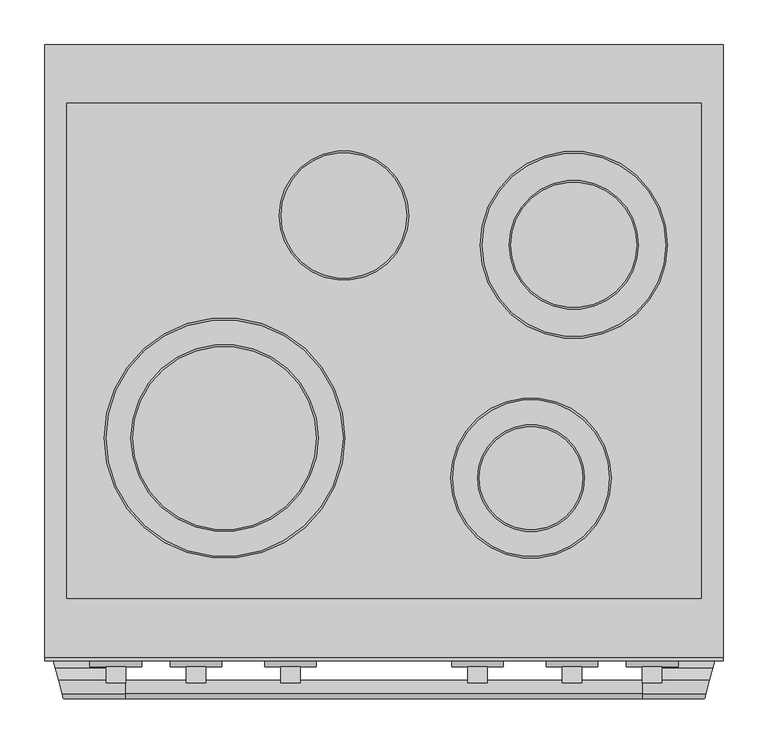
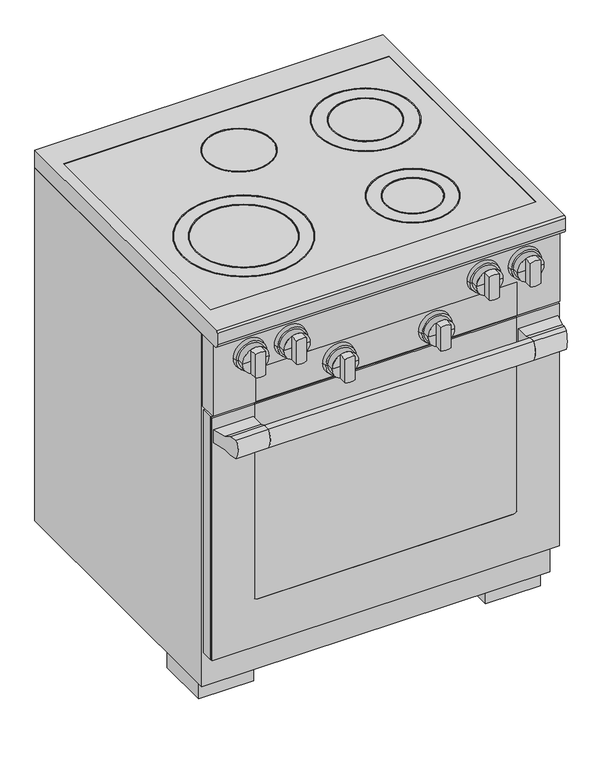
"""IFC4 building model written with IfcOpenShell, lengths in millimetres: proxy geometry, 09810110_USA_HR1421_EDST-CLST : 25142151_USA_9810110_HR1421_EDST-CLST."""

from ifc_helpers import new_model, si_unit, point, frame, frame_2d, origin, origin_with_axes, place, context, project, spatial, polyline, circle_curve, ellipse_curve, trimmed, segment, composite_curve, outline, extrude, faceted_brep, source, transform, mapped, element, save
from ifc_brep_helpers import plane_surface, cylinder_surface, revolved_surface, advanced_brep


def specialty_equipment_0d91f95b(model_context):
    return source(origin(), model_context, "Body", "SolidModel", [
        extrude(outline(composite_curve([segment(polyline([(-729.0, 667.0), (-714.0, 667.0), (-714.0, 624.0), (-729.0, 624.0)]), True, "CONTINUOUS"), segment(trimmed(circle_curve(frame_2d((-693.4791667, 645.5)), 41.5208333), [point((-729.0, 624.0))], [point((-729.0, 667.0))], False, "CARTESIAN"), True, "CONTINUOUS")], self_intersect=False)), frame((-290.0, 0.0, 0.0), z_axis=(1.0, 0.0, 0.0), x_axis=(0.0, 1.0, 0.0)), (0.0, 0.0, 1.0), 580.0),
        extrude(outline(polyline([(-380.0, -638.0), (380.0, -638.0), (380.0, -664.7), (-380.0, -664.7), (-380.0, -638.0)])), frame((0.0, 0.0, 127.0), z_axis=(0.0, 0.0, 1.0), x_axis=(1.0, 0.0, 0.0)), (0.0, 0.0, 1.0), 561.0),
        extrude(outline(polyline([(-379.0, -664.7), (379.0, -664.7), (379.0, -668.7), (-379.0, -668.7), (-379.0, -664.7)])), frame((0.0, 0.0, 128.0), z_axis=(0.0, 0.0, 1.0), x_axis=(1.0, 0.0, 0.0)), (0.0, 0.0, 1.0), 559.0),
        advanced_brep(
        [(287.0, -664.7, 688.0), (380.0, -664.7, 688.0), (380.0, -664.7, 127.0), (-380.0, -664.7, 127.0), (-380.0, -664.7, 688.0), (-287.0, -664.7, 688.0), (-287.0, -664.7, 687.0), (-379.0, -664.7, 687.0), (-379.0, -664.7, 128.0), (379.0, -664.7, 128.0), (379.0, -664.7, 687.0), (287.0, -664.7, 687.0), (-287.0, -670.0, 688.0), (-380.0, -670.0, 688.0), (-380.0, -670.0, 127.0), (380.0, -670.0, 127.0), (380.0, -670.0, 688.0), (287.0, -670.0, 688.0), (287.0, -670.0, 241.0), (281.0, -670.0, 235.0), (-281.0, -670.0, 235.0), (-287.0, -670.0, 241.0), (-287.0, -668.7, 241.0), (-287.0, -668.7, 687.0), (281.0, -668.7, 235.0), (-281.0, -668.7, 235.0), (287.0, -668.7, 687.0), (287.0, -668.7, 241.0), (379.0, -668.7, 687.0), (379.0, -668.7, 128.0), (-379.0, -668.7, 128.0), (-379.0, -668.7, 687.0)],
        [
            (0, 1),
            (1, 2),
            (2, 3),
            (3, 4),
            (4, 5),
            (5, 6),
            (6, 7),
            (7, 8),
            (8, 9),
            (9, 10),
            (10, 11),
            (11, 0),
            (12, 13),
            (13, 14),
            (14, 15),
            (15, 16),
            (16, 17),
            (17, 18),
            (18, 19, circle_curve(frame((281.0, -670.0, 241.0), z_axis=(0.0, 1.0, 0.0), x_axis=(-1.0, 0.0, 0.0)), 6.0)),
            (19, 20),
            (20, 21, circle_curve(frame((-281.0, -670.0, 241.0), z_axis=(0.0, 1.0, 0.0), x_axis=(-1.0, 0.0, 0.0)), 6.0)),
            (21, 12),
            (21, 22),
            (22, 23),
            (23, 6),
            (5, 12),
            (19, 24),
            (24, 25),
            (25, 20),
            (17, 0),
            (11, 26),
            (26, 27),
            (27, 18),
            (16, 1),
            (15, 2),
            (14, 3),
            (13, 4),
            (25, 22, circle_curve(frame((-281.0, -668.7, 241.0), z_axis=(0.0, 1.0, 0.0), x_axis=(-1.0, 0.0, 0.0)), 6.0)),
            (27, 24, circle_curve(frame((281.0, -668.7, 241.0), z_axis=(0.0, 1.0, 0.0), x_axis=(-1.0, 0.0, 0.0)), 6.0)),
            (28, 29),
            (29, 30),
            (30, 31),
            (31, 23),
            (26, 28),
            (28, 10),
            (9, 29),
            (8, 30),
            (7, 31),
        ],
        [
            plane_surface(frame((-287.0, -664.7, 241.0), z_axis=(0.0, 1.0, 0.0), x_axis=(0.0, 0.0, -1.0))),
            plane_surface(frame((-287.0, -670.0, 241.0), z_axis=(0.0, -1.0, 0.0), x_axis=(0.0, 0.0, 1.0))),
            plane_surface(frame((-287.0, -664.7, 688.0), z_axis=(1.0, 0.0, 0.0), x_axis=(0.0, -1.0, 0.0))),
            plane_surface(frame((-281.0, -664.7, 235.0), z_axis=(0.0, 0.0, 1.0), x_axis=(0.0, -1.0, 0.0))),
            plane_surface(frame((287.0, -664.7, 241.0), z_axis=(-1.0, 0.0, 0.0), x_axis=(0.0, -1.0, 0.0))),
            plane_surface(frame((287.0, -664.7, 688.0), z_axis=(0.0, 0.0, 1.0), x_axis=(0.0, -1.0, 0.0))),
            plane_surface(frame((380.0, -664.7, 688.0), z_axis=(1.0, 0.0, 0.0), x_axis=(0.0, -1.0, 0.0))),
            plane_surface(frame((380.0, -664.7, 127.0), z_axis=(0.0, 0.0, -1.0), x_axis=(0.0, -1.0, 0.0))),
            plane_surface(frame((-380.0, -664.7, 127.0), z_axis=(-1.0, 0.0, 0.0), x_axis=(0.0, -1.0, 0.0))),
            plane_surface(frame((-380.0, -664.7, 688.0), z_axis=(0.0, 0.0, 1.0), x_axis=(0.0, -1.0, 0.0))),
            revolved_surface(polyline([(-287.0, -670.0, 241.0), (-287.0, -668.7, 241.0)]), (-281.0, -670.0, 241.0), (0.0, -1.0, 0.0)),
            revolved_surface(polyline([(275.0, -670.0, 241.0), (275.0, -668.7, 241.0)]), (281.0, -670.0, 241.0), (0.0, -1.0, 0.0)),
            plane_surface(frame((379.0, -668.7, 687.0), z_axis=(0.0, 1.0, 0.0), x_axis=(0.0, 0.0, 1.0))),
            plane_surface(frame((379.0, -664.7, 687.0), z_axis=(-1.0, 0.0, 0.0), x_axis=(0.0, -1.0, 0.0))),
            plane_surface(frame((379.0, -664.7, 128.0), z_axis=(0.0, 0.0, 1.0), x_axis=(0.0, -1.0, 0.0))),
            plane_surface(frame((-379.0, -664.7, 128.0), z_axis=(1.0, 0.0, 0.0), x_axis=(0.0, -1.0, 0.0))),
            plane_surface(frame((-379.0, -664.7, 687.0), z_axis=(0.0, 0.0, -1.0), x_axis=(0.0, -1.0, 0.0))),
        ],
        [
            (0, [[1, 2, 3, 4, 5, 6, 7, 8, 9, 10, 11, 12]]),
            (1, [[13, 14, 15, 16, 17, 18, 19, 20, 21, 22]]),
            (2, [[-22, 23, 24, 25, -6, 26]]),
            (3, [[-20, 27, 28, 29]]),
            (4, [[-18, 30, -12, 31, 32, 33]]),
            (5, [[-1, -30, -17, 34]]),
            (6, [[-2, -34, -16, 35]]),
            (7, [[-3, -35, -15, 36]]),
            (8, [[-4, -36, -14, 37]]),
            (9, [[-5, -37, -13, -26]]),
            (10, [[-21, -29, 38, -23]]),
            (11, [[-19, -33, 39, -27]]),
            (12, [[40, 41, 42, 43, -24, -38, -28, -39, -32, 44]]),
            (13, [[-40, 45, -10, 46]]),
            (14, [[-41, -46, -9, 47]]),
            (15, [[-42, -47, -8, 48]]),
            (16, [[-45, -44, -31, -11]]),
            (16, [[-48, -7, -25, -43]]),
        ],
    ),
        extrude(outline(polyline([(-351.0, -617.0), (351.0, -617.0), (351.0, -638.0), (-351.0, -638.0), (-351.0, -617.0)])), frame((0.0, 0.0, 133.0), z_axis=(0.0, 0.0, 1.0), x_axis=(1.0, 0.0, 0.0)), (0.0, 0.0, 1.0), 550.0),
        advanced_brep(
        [(-290.0, -700.0, 630.0), (-290.0, -670.0, 630.0), (-290.0, -670.0, 661.0), (-290.0, -700.0, 661.0), (-290.0, -714.0, 667.0), (-290.0, -729.0, 667.0), (-290.0, -729.0, 624.0), (-290.0, -714.0, 624.0), (-368.9615242, -700.0, 630.0), (-377.0, -670.0, 630.0), (-377.0, -670.0, 661.0), (-368.9615242, -700.0, 661.0), (-365.2102355, -714.0, 667.0), (-361.1909976, -729.0, 667.0), (-361.1909976, -729.0, 624.0), (-365.2102355, -714.0, 624.0)],
        [
            (0, 1),
            (1, 2),
            (2, 3),
            (3, 4),
            (4, 5),
            (5, 6, circle_curve(frame((-290.0, -693.4791667, 645.5), z_axis=(1.0, 0.0, 0.0), x_axis=(0.0, 0.0, 1.0)), 41.5208333)),
            (6, 7),
            (7, 0),
            (0, 8),
            (8, 9),
            (9, 1),
            (9, 10),
            (10, 2),
            (10, 11),
            (11, 3),
            (4, 12),
            (12, 13),
            (13, 5),
            (13, 14, ellipse_curve(frame((-370.7087763, -693.4791667, 645.5), z_axis=(0.9659258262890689, 0.258819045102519, 0.0), x_axis=(0.2588190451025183, -0.9659258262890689, 0.0)), 42.9855297, 41.5208333)),
            (14, 6),
            (14, 15),
            (15, 7),
            (8, 15),
            (12, 11),
        ],
        [
            plane_surface(frame((-290.0, -670.0, 630.0), z_axis=(1.0, 0.0, 0.0), x_axis=(0.0, 1.0, 0.0))),
            plane_surface(frame((-290.0, -700.0, 630.0), z_axis=(0.0, 0.0, -1.0), x_axis=(-1.0, 0.0, 0.0))),
            plane_surface(frame((-290.0, -670.0, 630.0), z_axis=(0.0, 1.0, 0.0), x_axis=(-1.0, 0.0, 0.0))),
            plane_surface(frame((-290.0, -670.0, 661.0), z_axis=(0.0, 0.0, 1.0), x_axis=(-1.0, 0.0, 0.0))),
            plane_surface(frame((-290.0, -714.0, 667.0), z_axis=(0.0, 0.0, 1.0), x_axis=(-1.0, 0.0, 0.0))),
            cylinder_surface(frame((-377.0, -693.4791667, 645.5), z_axis=(1.0, 0.0, 0.0), x_axis=(0.0, 0.0, 1.0)), 41.5208333),
            plane_surface(frame((-290.0, -729.0, 624.0), z_axis=(0.0, 0.0, -1.0), x_axis=(-1.0, 0.0, 0.0))),
            plane_surface(frame((-354.5578883, -753.7551012, 668.5), z_axis=(-0.9659258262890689, -0.258819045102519, 0.0), x_axis=(0.0, 0.0, -1.0))),
            plane_surface(frame((-290.0, -700.0, 661.0), z_axis=(0.0, 0.39391929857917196, 0.919145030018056), x_axis=(-1.0, 0.0, 0.0))),
            plane_surface(frame((-290.0, -714.0, 624.0), z_axis=(0.0, 0.39391929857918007, -0.9191450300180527), x_axis=(-1.0, 0.0, 0.0))),
        ],
        [
            (0, [[1, 2, 3, 4, 5, 6, 7, 8]]),
            (1, [[-1, 9, 10, 11]]),
            (2, [[-2, -11, 12, 13]]),
            (3, [[-3, -13, 14, 15]]),
            (4, [[-5, 16, 17, 18]]),
            (5, [[-6, -18, 19, 20]]),
            (6, [[-7, -20, 21, 22]]),
            (7, [[-10, 23, -21, -19, -17, 24, -14, -12]]),
            (8, [[-4, -15, -24, -16]]),
            (9, [[-8, -22, -23, -9]]),
        ],
    ),
        advanced_brep(
        [(290.0, -700.0, 661.0), (290.0, -670.0, 661.0), (290.0, -670.0, 630.0), (290.0, -700.0, 630.0), (290.0, -714.0, 624.0), (290.0, -729.0, 624.0), (290.0, -729.0, 667.0), (290.0, -714.0, 667.0), (361.1909976, -729.0, 667.0), (365.2102355, -714.0, 667.0), (361.1909976, -729.0, 624.0), (365.2102355, -714.0, 624.0), (377.0, -670.0, 630.0), (368.9615242, -700.0, 630.0), (377.0, -670.0, 661.0), (368.9615242, -700.0, 661.0)],
        [
            (0, 1),
            (1, 2),
            (2, 3),
            (3, 4),
            (4, 5),
            (5, 6, circle_curve(frame((290.0, -693.4791667, 645.5), z_axis=(-1.0, 0.0, 0.0), x_axis=(0.0, 0.0, 1.0)), 41.5208333)),
            (6, 7),
            (7, 0),
            (6, 8),
            (8, 9),
            (9, 7),
            (5, 10),
            (10, 8, ellipse_curve(frame((370.7087763, -693.4791667, 645.5), z_axis=(-0.9659258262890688, 0.258819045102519, 0.0), x_axis=(0.2588190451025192, 0.9659258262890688, 0.0)), 42.9855297, 41.5208333)),
            (4, 11),
            (11, 10),
            (2, 12),
            (12, 13),
            (13, 3),
            (1, 14),
            (14, 12),
            (0, 15),
            (15, 14),
            (11, 13),
            (15, 9),
        ],
        [
            plane_surface(frame((290.0, -714.0, 667.0), z_axis=(-1.0000000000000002, 0.0, 0.0), x_axis=(0.0, 0.9191450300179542, -0.3939192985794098))),
            plane_surface(frame((377.0, -714.0, 667.0), z_axis=(0.0, 0.0, 1.0), x_axis=(-1.0, 0.0, 0.0))),
            cylinder_surface(frame((290.0, -693.4791667, 645.5), z_axis=(1.0, 0.0, 0.0), x_axis=(0.0, 0.0, 1.0)), 41.5208333),
            plane_surface(frame((377.0, -729.0, 624.0), z_axis=(0.0, 0.0, -1.0), x_axis=(-1.0, 0.0, 0.0))),
            plane_surface(frame((377.0, -700.0, 630.0), z_axis=(0.0, 0.0, -1.0), x_axis=(-1.0, 0.0, 0.0))),
            plane_surface(frame((377.0, -670.0, 630.0), z_axis=(0.0, 1.0, 0.0), x_axis=(-1.0, 0.0, 0.0))),
            plane_surface(frame((377.0, -670.0, 661.0), z_axis=(0.0, 0.0, 1.0), x_axis=(-1.0, 0.0, 0.0))),
            plane_surface(frame((377.0, -670.0, 668.5), z_axis=(0.9659258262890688, -0.258819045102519, 0.0), x_axis=(0.0, 0.0, -1.0))),
            plane_surface(frame((377.0, -700.0, 661.0), z_axis=(0.0, 0.3939192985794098, 0.9191450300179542), x_axis=(-1.0, 0.0, 0.0))),
            plane_surface(frame((377.0, -714.0, 624.0), z_axis=(0.0, 0.3939192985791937, -0.9191450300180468), x_axis=(-1.0, 0.0, 0.0))),
        ],
        [
            (0, [[1, 2, 3, 4, 5, 6, 7, 8]]),
            (1, [[-7, 9, 10, 11]]),
            (2, [[-6, 12, 13, -9]]),
            (3, [[-5, 14, 15, -12]]),
            (4, [[-3, 16, 17, 18]]),
            (5, [[-2, 19, 20, -16]]),
            (6, [[-1, 21, 22, -19]]),
            (7, [[-10, -13, -15, 23, -17, -20, -22, 24]]),
            (8, [[-8, -11, -24, -21]]),
            (9, [[-4, -18, -23, -14]]),
        ],
    ),
        extrude(outline(polyline([(356.0, -66.0), (356.0, -622.0), (-356.0, -622.0), (-356.0, -66.0), (356.0, -66.0)])), frame((0.0, 0.0, 896.4), z_axis=(0.0, 0.0, 1.0), x_axis=(1.0, 0.0, 0.0)), (0.0, 0.0, 1.0), 4.0),
        advanced_brep(
        [(381.0, 0.0, 902.0), (381.0, -688.0, 902.0), (381.0, -692.0, 898.0), (381.0, -692.0, 872.0), (381.0, -682.0, 862.0), (381.0, 0.0, 862.0), (-381.0, 0.0, 902.0), (-381.0, 0.0, 862.0), (-381.0, -682.0, 862.0), (-381.0, -692.0, 872.0), (-381.0, -692.0, 898.0), (-381.0, -688.0, 902.0), (-356.0, -66.0, 902.0), (356.0, -66.0, 902.0), (356.0, -622.0, 902.0), (-356.0, -622.0, 902.0), (356.0, -66.0, 896.4), (-356.0, -66.0, 896.4), (-356.0, -622.0, 896.4), (356.0, -622.0, 896.4)],
        [
            (0, 1),
            (1, 2, circle_curve(frame((381.0, -688.0, 898.0), z_axis=(1.0, 0.0, 0.0), x_axis=(0.0, 0.0, 1.0)), 4.0)),
            (2, 3),
            (3, 4, circle_curve(frame((381.0, -682.0, 872.0), z_axis=(1.0, 0.0, 0.0), x_axis=(0.0, 0.0, 1.0)), 10.0)),
            (4, 5),
            (5, 0),
            (6, 7),
            (7, 8),
            (8, 9, circle_curve(frame((-381.0, -682.0, 872.0), z_axis=(-1.0, 0.0, 0.0), x_axis=(0.0, 0.0, 1.0)), 10.0)),
            (9, 10),
            (10, 11, circle_curve(frame((-381.0, -688.0, 898.0), z_axis=(-1.0, 0.0, 0.0), x_axis=(0.0, 0.0, 1.0)), 4.0)),
            (11, 6),
            (0, 6),
            (11, 1),
            (12, 13),
            (13, 14),
            (14, 15),
            (15, 12),
            (10, 2),
            (9, 3),
            (8, 4),
            (7, 5),
            (16, 17),
            (17, 18),
            (18, 19),
            (19, 16),
            (16, 13),
            (12, 17),
            (15, 18),
            (14, 19),
        ],
        [
            plane_surface(frame((381.0, -688.0, 902.0), z_axis=(1.0, 0.0, 0.0), x_axis=(0.0, -1.0, 0.0))),
            plane_surface(frame((-381.0, -688.0, 902.0), z_axis=(-1.0, 0.0, 0.0), x_axis=(0.0, 1.0, 0.0))),
            plane_surface(frame((381.0, 0.0, 902.0), z_axis=(0.0, 0.0, 1.0), x_axis=(-1.0, 0.0, 0.0))),
            cylinder_surface(frame((-381.0, -688.0, 898.0), z_axis=(1.0, 0.0, 0.0), x_axis=(0.0, 0.0, 1.0)), 4.0),
            plane_surface(frame((381.0, -692.0, 898.0), z_axis=(0.0, -1.0, 0.0), x_axis=(-1.0, 0.0, 0.0))),
            cylinder_surface(frame((-381.0, -682.0, 872.0), z_axis=(1.0, 0.0, 0.0), x_axis=(0.0, 0.0, 1.0)), 10.0),
            plane_surface(frame((381.0, -682.0, 862.0), z_axis=(0.0, 0.0, -1.0), x_axis=(-1.0, 0.0, 0.0))),
            plane_surface(frame((381.0, 0.0, 862.0), z_axis=(0.0, 1.0, 0.0), x_axis=(-1.0, 0.0, 0.0))),
            plane_surface(frame((-356.0, -66.0, 896.4), z_axis=(0.0, 0.0, 1.0), x_axis=(1.0, 0.0, 0.0))),
            plane_surface(frame((356.0, -66.0, 902.0), z_axis=(0.0, -1.0, 0.0), x_axis=(0.0, 0.0, -1.0))),
            plane_surface(frame((-356.0, -66.0, 902.0), z_axis=(1.0, 0.0, 0.0), x_axis=(0.0, 0.0, -1.0))),
            plane_surface(frame((-356.0, -622.0, 902.0), z_axis=(0.0, 1.0, 0.0), x_axis=(0.0, 0.0, -1.0))),
            plane_surface(frame((356.0, -622.0, 902.0), z_axis=(-1.0, 0.0, 0.0), x_axis=(0.0, 0.0, -1.0))),
        ],
        [
            (0, [[1, 2, 3, 4, 5, 6]]),
            (1, [[7, 8, 9, 10, 11, 12]]),
            (2, [[-1, 13, -12, 14], [15, 16, 17, 18]]),
            (3, [[-2, -14, -11, 19]]),
            (4, [[-3, -19, -10, 20]]),
            (5, [[-4, -20, -9, 21]]),
            (6, [[-5, -21, -8, 22]]),
            (7, [[-6, -22, -7, -13]]),
            (8, [[23, 24, 25, 26]]),
            (9, [[-23, 27, -15, 28]]),
            (10, [[-24, -28, -18, 29]]),
            (11, [[-25, -29, -17, 30]]),
            (12, [[-26, -30, -16, -27]]),
        ],
    ),
        extrude(outline(composite_curve([segment(trimmed(circle_curve(frame_2d((-45.0, -192.0)), 72.5), [point((27.5, -192.0))], [point((-117.5, -192.0))], False, "CARTESIAN"), True, "CONTINUOUS"), segment(trimmed(circle_curve(frame_2d((-45.0, -192.0)), 72.5), [point((-117.5, -192.0))], [point((27.5, -192.0))], False, "CARTESIAN"), True, "CONTINUOUS")], self_intersect=False), holes=[composite_curve([segment(trimmed(circle_curve(frame_2d((-45.0, -192.0)), 70.5), [point((25.5, -192.0))], [point((-115.5, -192.0))], True, "CARTESIAN"), True, "CONTINUOUS"), segment(trimmed(circle_curve(frame_2d((-45.0, -192.0)), 70.5), [point((-115.5, -192.0))], [point((25.5, -192.0))], True, "CARTESIAN"), True, "CONTINUOUS")], self_intersect=False)]), frame((0.0, 0.0, 900.4), z_axis=(0.0, 0.0, 1.0), x_axis=(1.0, 0.0, 0.0)), (0.0, 0.0, 1.0), 1.0),
        extrude(outline(composite_curve([segment(trimmed(circle_curve(frame_2d((213.0, -225.0)), 105.0), [point((318.0, -225.0))], [point((108.0, -225.0))], False, "CARTESIAN"), True, "CONTINUOUS"), segment(trimmed(circle_curve(frame_2d((213.0, -225.0)), 105.0), [point((108.0, -225.0))], [point((318.0, -225.0))], False, "CARTESIAN"), True, "CONTINUOUS")], self_intersect=False), holes=[composite_curve([segment(trimmed(circle_curve(frame_2d((213.0, -225.0)), 103.0), [point((316.0, -225.0))], [point((110.0, -225.0))], True, "CARTESIAN"), True, "CONTINUOUS"), segment(trimmed(circle_curve(frame_2d((213.0, -225.0)), 103.0), [point((110.0, -225.0))], [point((316.0, -225.0))], True, "CARTESIAN"), True, "CONTINUOUS")], self_intersect=False)]), frame((0.0, 0.0, 900.4), z_axis=(0.0, 0.0, 1.0), x_axis=(1.0, 0.0, 0.0)), (0.0, 0.0, 1.0), 1.0),
        extrude(outline(composite_curve([segment(trimmed(circle_curve(frame_2d((165.0, -487.0)), 90.0), [point((255.0, -487.0))], [point((75.0, -487.0))], False, "CARTESIAN"), True, "CONTINUOUS"), segment(trimmed(circle_curve(frame_2d((165.0, -487.0)), 90.0), [point((75.0, -487.0))], [point((255.0, -487.0))], False, "CARTESIAN"), True, "CONTINUOUS")], self_intersect=False), holes=[composite_curve([segment(trimmed(circle_curve(frame_2d((165.0, -487.0)), 88.0), [point((253.0, -487.0))], [point((77.0, -487.0))], True, "CARTESIAN"), True, "CONTINUOUS"), segment(trimmed(circle_curve(frame_2d((165.0, -487.0)), 88.0), [point((77.0, -487.0))], [point((253.0, -487.0))], True, "CARTESIAN"), True, "CONTINUOUS")], self_intersect=False)]), frame((0.0, 0.0, 900.4), z_axis=(0.0, 0.0, 1.0), x_axis=(1.0, 0.0, 0.0)), (0.0, 0.0, 1.0), 1.0),
        extrude(outline(composite_curve([segment(trimmed(circle_curve(frame_2d((-179.0, -442.0)), 135.0), [point((-44.0, -442.0))], [point((-314.0, -442.0))], False, "CARTESIAN"), True, "CONTINUOUS"), segment(trimmed(circle_curve(frame_2d((-179.0, -442.0)), 135.0), [point((-314.0, -442.0))], [point((-44.0, -442.0))], False, "CARTESIAN"), True, "CONTINUOUS")], self_intersect=False), holes=[composite_curve([segment(trimmed(circle_curve(frame_2d((-179.0, -442.0)), 133.0), [point((-46.0, -442.0))], [point((-312.0, -442.0))], True, "CARTESIAN"), True, "CONTINUOUS"), segment(trimmed(circle_curve(frame_2d((-179.0, -442.0)), 133.0), [point((-312.0, -442.0))], [point((-46.0, -442.0))], True, "CARTESIAN"), True, "CONTINUOUS")], self_intersect=False)]), frame((0.0, 0.0, 900.4), z_axis=(0.0, 0.0, 1.0), x_axis=(1.0, 0.0, 0.0)), (0.0, 0.0, 1.0), 1.0),
        extrude(outline(composite_curve([segment(trimmed(circle_curve(frame_2d((-179.0, -442.0)), 105.0), [point((-74.0, -442.0))], [point((-284.0, -442.0))], False, "CARTESIAN"), True, "CONTINUOUS"), segment(trimmed(circle_curve(frame_2d((-179.0, -442.0)), 105.0), [point((-284.0, -442.0))], [point((-74.0, -442.0))], False, "CARTESIAN"), True, "CONTINUOUS")], self_intersect=False), holes=[composite_curve([segment(trimmed(circle_curve(frame_2d((-179.0, -442.0)), 103.0), [point((-76.0, -442.0))], [point((-282.0, -442.0))], True, "CARTESIAN"), True, "CONTINUOUS"), segment(trimmed(circle_curve(frame_2d((-179.0, -442.0)), 103.0), [point((-282.0, -442.0))], [point((-76.0, -442.0))], True, "CARTESIAN"), True, "CONTINUOUS")], self_intersect=False)]), frame((0.0, 0.0, 900.4), z_axis=(0.0, 0.0, 1.0), x_axis=(1.0, 0.0, 0.0)), (0.0, 0.0, 1.0), 1.0),
        extrude(outline(composite_curve([segment(trimmed(circle_curve(frame_2d((165.0, -487.0)), 60.0), [point((225.0, -487.0))], [point((105.0, -487.0))], False, "CARTESIAN"), True, "CONTINUOUS"), segment(trimmed(circle_curve(frame_2d((165.0, -487.0)), 60.0), [point((105.0, -487.0))], [point((225.0, -487.0))], False, "CARTESIAN"), True, "CONTINUOUS")], self_intersect=False), holes=[composite_curve([segment(trimmed(circle_curve(frame_2d((165.0, -487.0)), 58.0), [point((223.0, -487.0))], [point((107.0, -487.0))], True, "CARTESIAN"), True, "CONTINUOUS"), segment(trimmed(circle_curve(frame_2d((165.0, -487.0)), 58.0), [point((107.0, -487.0))], [point((223.0, -487.0))], True, "CARTESIAN"), True, "CONTINUOUS")], self_intersect=False)]), frame((0.0, 0.0, 900.4), z_axis=(0.0, 0.0, 1.0), x_axis=(1.0, 0.0, 0.0)), (0.0, 0.0, 1.0), 1.0),
        extrude(outline(composite_curve([segment(trimmed(circle_curve(frame_2d((213.0, -225.0)), 72.5), [point((285.5, -225.0))], [point((140.5, -225.0))], False, "CARTESIAN"), True, "CONTINUOUS"), segment(trimmed(circle_curve(frame_2d((213.0, -225.0)), 72.5), [point((140.5, -225.0))], [point((285.5, -225.0))], False, "CARTESIAN"), True, "CONTINUOUS")], self_intersect=False), holes=[composite_curve([segment(trimmed(circle_curve(frame_2d((213.0, -225.0)), 70.5), [point((283.5, -225.0))], [point((142.5, -225.0))], True, "CARTESIAN"), True, "CONTINUOUS"), segment(trimmed(circle_curve(frame_2d((213.0, -225.0)), 70.5), [point((142.5, -225.0))], [point((283.5, -225.0))], True, "CARTESIAN"), True, "CONTINUOUS")], self_intersect=False)]), frame((0.0, 0.0, 900.4), z_axis=(0.0, 0.0, 1.0), x_axis=(1.0, 0.0, 0.0)), (0.0, 0.0, 1.0), 1.0),
        extrude(outline(composite_curve([segment(polyline([(759.8328157, 94.0), (706.1671843, 94.0)]), True, "CONTINUOUS"), segment(trimmed(circle_curve(frame_2d((733.0, 105.0)), 29.0), [point((706.1671843, 94.0))], [point((706.1671843, 116.0))], False, "CARTESIAN"), True, "CONTINUOUS"), segment(polyline([(706.1671843, 116.0), (759.8328157, 116.0)]), True, "CONTINUOUS"), segment(trimmed(circle_curve(frame_2d((733.0, 105.0)), 29.0), [point((759.8328157, 116.0))], [point((759.8328157, 94.0))], False, "CARTESIAN"), True, "CONTINUOUS")], self_intersect=False)), frame((0.0, -717.0, 0.0), z_axis=(0.0, 1.0, 0.0), x_axis=(0.0, 0.0, 1.0)), (0.0, 0.0, 1.0), 18.0),
        extrude(outline(composite_curve([segment(polyline([(759.8328157, -116.0), (706.1671843, -116.0)]), True, "CONTINUOUS"), segment(trimmed(circle_curve(frame_2d((733.0, -105.0)), 29.0), [point((706.1671843, -116.0))], [point((706.1671843, -94.0))], False, "CARTESIAN"), True, "CONTINUOUS"), segment(polyline([(706.1671843, -94.0), (759.8328157, -94.0)]), True, "CONTINUOUS"), segment(trimmed(circle_curve(frame_2d((733.0, -105.0)), 29.0), [point((759.8328157, -94.0))], [point((759.8328157, -116.0))], False, "CARTESIAN"), True, "CONTINUOUS")], self_intersect=False)), frame((0.0, -717.0, 0.0), z_axis=(0.0, 1.0, 0.0), x_axis=(0.0, 0.0, 1.0)), (0.0, 0.0, 1.0), 18.0),
        advanced_brep(
        [(-105.0, -683.0, 733.0), (-76.0, -683.0, 733.0), (-134.0, -683.0, 733.0), (-134.0, -699.0, 733.0), (-76.0, -699.0, 733.0), (-105.0, -699.0, 733.0)],
        [
            (0, 1),
            (1, 2, circle_curve(frame((-105.0, -683.0, 733.0), z_axis=(0.0, 1.0, 0.0), x_axis=(1.0, 0.0, 0.0)), 29.0)),
            (2, 0),
            (2, 1, circle_curve(frame((-105.0, -683.0, 733.0), z_axis=(0.0, 1.0, 0.0), x_axis=(1.0, 0.0, 0.0)), 29.0)),
            (3, 4, circle_curve(frame((-105.0, -699.0, 733.0), z_axis=(0.0, -1.0, 0.0), x_axis=(1.0, 0.0, 0.0)), 29.0)),
            (4, 5),
            (5, 3),
            (4, 3, circle_curve(frame((-105.0, -699.0, 733.0), z_axis=(0.0, -1.0, 0.0), x_axis=(1.0, 0.0, 0.0)), 29.0)),
            (1, 4),
            (3, 2),
        ],
        [
            plane_surface(frame((-105.0, -683.0, 733.0), z_axis=(0.0, 1.0, 0.0), x_axis=(1.0, 0.0, 0.0))),
            plane_surface(frame((-105.0, -699.0, 733.0), z_axis=(0.0, -1.0, 0.0), x_axis=(1.0, 0.0, 0.0))),
            cylinder_surface(frame((-105.0, 751.3738435, 733.0), z_axis=(0.0, 1.0, 0.0), x_axis=(1.0, 0.0, 0.0)), 29.0),
        ],
        [
            (0, [[1, 2, 3]]),
            (0, [[-3, 4, -1]]),
            (1, [[5, 6, 7]]),
            (1, [[8, -7, -6]]),
            (2, [[-2, 9, -5, 10]]),
            (2, [[-4, -10, -8, -9]]),
        ],
    ),
        advanced_brep(
        [(105.0, -683.0, 733.0), (134.0, -683.0, 733.0), (76.0, -683.0, 733.0), (76.0, -699.0, 733.0), (134.0, -699.0, 733.0), (105.0, -699.0, 733.0)],
        [
            (0, 1),
            (1, 2, circle_curve(frame((105.0, -683.0, 733.0), z_axis=(0.0, 1.0, 0.0), x_axis=(1.0, 0.0, 0.0)), 29.0)),
            (2, 0),
            (2, 1, circle_curve(frame((105.0, -683.0, 733.0), z_axis=(0.0, 1.0, 0.0), x_axis=(1.0, 0.0, 0.0)), 29.0)),
            (3, 4, circle_curve(frame((105.0, -699.0, 733.0), z_axis=(0.0, -1.0, 0.0), x_axis=(1.0, 0.0, 0.0)), 29.0)),
            (4, 5),
            (5, 3),
            (4, 3, circle_curve(frame((105.0, -699.0, 733.0), z_axis=(0.0, -1.0, 0.0), x_axis=(1.0, 0.0, 0.0)), 29.0)),
            (1, 4),
            (3, 2),
        ],
        [
            plane_surface(frame((105.0, -683.0, 733.0), z_axis=(0.0, 1.0, 0.0), x_axis=(1.0, 0.0, 0.0))),
            plane_surface(frame((105.0, -699.0, 733.0), z_axis=(0.0, -1.0, 0.0), x_axis=(1.0, 0.0, 0.0))),
            cylinder_surface(frame((105.0, 751.3738435, 733.0), z_axis=(0.0, 1.0, 0.0), x_axis=(1.0, 0.0, 0.0)), 29.0),
        ],
        [
            (0, [[1, 2, 3]]),
            (0, [[-3, 4, -1]]),
            (1, [[5, 6, 7]]),
            (1, [[8, -7, -6]]),
            (2, [[-2, 9, -5, 10]]),
            (2, [[-4, -10, -8, -9]]),
        ],
    ),
        extrude(outline(composite_curve([segment(polyline([(839.8328157, -312.0), (786.1671843, -312.0)]), True, "CONTINUOUS"), segment(trimmed(circle_curve(frame_2d((813.0, -301.0)), 29.0), [point((786.1671843, -312.0))], [point((786.1671843, -290.0))], False, "CARTESIAN"), True, "CONTINUOUS"), segment(polyline([(786.1671843, -290.0), (839.8328157, -290.0)]), True, "CONTINUOUS"), segment(trimmed(circle_curve(frame_2d((813.0, -301.0)), 29.0), [point((839.8328157, -290.0))], [point((839.8328157, -312.0))], False, "CARTESIAN"), True, "CONTINUOUS")], self_intersect=False)), frame((0.0, -717.0, 0.0), z_axis=(0.0, 1.0, 0.0), x_axis=(0.0, 0.0, 1.0)), (0.0, 0.0, 1.0), 18.0),
        extrude(outline(composite_curve([segment(polyline([(839.8328157, -222.0), (786.1671843, -222.0)]), True, "CONTINUOUS"), segment(trimmed(circle_curve(frame_2d((813.0, -211.0)), 29.0), [point((786.1671843, -222.0))], [point((786.1671843, -200.0))], False, "CARTESIAN"), True, "CONTINUOUS"), segment(polyline([(786.1671843, -200.0), (839.8328157, -200.0)]), True, "CONTINUOUS"), segment(trimmed(circle_curve(frame_2d((813.0, -211.0)), 29.0), [point((839.8328157, -200.0))], [point((839.8328157, -222.0))], False, "CARTESIAN"), True, "CONTINUOUS")], self_intersect=False)), frame((0.0, -717.0, 0.0), z_axis=(0.0, 1.0, 0.0), x_axis=(0.0, 0.0, 1.0)), (0.0, 0.0, 1.0), 18.0),
        extrude(outline(composite_curve([segment(trimmed(circle_curve(frame_2d((813.0, 211.0)), 29.0), [point((786.1671843, 200.0))], [point((786.1671843, 222.0))], False, "CARTESIAN"), True, "CONTINUOUS"), segment(polyline([(786.1671843, 222.0), (839.8328157, 222.0)]), True, "CONTINUOUS"), segment(trimmed(circle_curve(frame_2d((813.0, 211.0)), 29.0), [point((839.8328157, 222.0))], [point((839.8328157, 200.0))], False, "CARTESIAN"), True, "CONTINUOUS"), segment(polyline([(839.8328157, 200.0), (786.1671843, 200.0)]), True, "CONTINUOUS")], self_intersect=False)), frame((0.0, -717.0, 0.0), z_axis=(0.0, 1.0, 0.0), x_axis=(0.0, 0.0, 1.0)), (0.0, 0.0, 1.0), 18.0),
        advanced_brep(
        [(-301.0, -683.0, 813.0), (-272.0, -683.0, 813.0), (-330.0, -683.0, 813.0), (-330.0, -699.0, 813.0), (-272.0, -699.0, 813.0), (-301.0, -699.0, 813.0)],
        [
            (0, 1),
            (1, 2, circle_curve(frame((-301.0, -683.0, 813.0), z_axis=(0.0, 1.0, 0.0), x_axis=(1.0, 0.0, 0.0)), 29.0)),
            (2, 0),
            (2, 1, circle_curve(frame((-301.0, -683.0, 813.0), z_axis=(0.0, 1.0, 0.0), x_axis=(1.0, 0.0, 0.0)), 29.0)),
            (3, 4, circle_curve(frame((-301.0, -699.0, 813.0), z_axis=(0.0, -1.0, 0.0), x_axis=(1.0, 0.0, 0.0)), 29.0)),
            (4, 5),
            (5, 3),
            (4, 3, circle_curve(frame((-301.0, -699.0, 813.0), z_axis=(0.0, -1.0, 0.0), x_axis=(1.0, 0.0, 0.0)), 29.0)),
            (1, 4),
            (3, 2),
        ],
        [
            plane_surface(frame((-301.0, -683.0, 813.0), z_axis=(0.0, 1.0, 0.0), x_axis=(1.0, 0.0, 0.0))),
            plane_surface(frame((-301.0, -699.0, 813.0), z_axis=(0.0, -1.0, 0.0), x_axis=(1.0, 0.0, 0.0))),
            cylinder_surface(frame((-301.0, 751.3738435, 813.0), z_axis=(0.0, 1.0, 0.0), x_axis=(1.0, 0.0, 0.0)), 29.0),
        ],
        [
            (0, [[1, 2, 3]]),
            (0, [[-3, 4, -1]]),
            (1, [[5, 6, 7]]),
            (1, [[8, -7, -6]]),
            (2, [[-2, 9, -5, 10]]),
            (2, [[-4, -10, -8, -9]]),
        ],
    ),
        advanced_brep(
        [(-211.0, -683.0, 813.0), (-182.0, -683.0, 813.0), (-240.0, -683.0, 813.0), (-240.0, -699.0, 813.0), (-182.0, -699.0, 813.0), (-211.0, -699.0, 813.0)],
        [
            (0, 1),
            (1, 2, circle_curve(frame((-211.0, -683.0, 813.0), z_axis=(0.0, 1.0, 0.0), x_axis=(1.0, 0.0, 0.0)), 29.0)),
            (2, 0),
            (2, 1, circle_curve(frame((-211.0, -683.0, 813.0), z_axis=(0.0, 1.0, 0.0), x_axis=(1.0, 0.0, 0.0)), 29.0)),
            (3, 4, circle_curve(frame((-211.0, -699.0, 813.0), z_axis=(0.0, -1.0, 0.0), x_axis=(1.0, 0.0, 0.0)), 29.0)),
            (4, 5),
            (5, 3),
            (4, 3, circle_curve(frame((-211.0, -699.0, 813.0), z_axis=(0.0, -1.0, 0.0), x_axis=(1.0, 0.0, 0.0)), 29.0)),
            (1, 4),
            (3, 2),
        ],
        [
            plane_surface(frame((-211.0, -683.0, 813.0), z_axis=(0.0, 1.0, 0.0), x_axis=(1.0, 0.0, 0.0))),
            plane_surface(frame((-211.0, -699.0, 813.0), z_axis=(0.0, -1.0, 0.0), x_axis=(1.0, 0.0, 0.0))),
            cylinder_surface(frame((-211.0, 751.3738435, 813.0), z_axis=(0.0, 1.0, 0.0), x_axis=(1.0, 0.0, 0.0)), 29.0),
        ],
        [
            (0, [[1, 2, 3]]),
            (0, [[-3, 4, -1]]),
            (1, [[5, 6, 7]]),
            (1, [[8, -7, -6]]),
            (2, [[-2, 9, -5, 10]]),
            (2, [[-4, -10, -8, -9]]),
        ],
    ),
        advanced_brep(
        [(211.0, -683.0, 813.0), (240.0, -683.0, 813.0), (182.0, -683.0, 813.0), (182.0, -699.0, 813.0), (240.0, -699.0, 813.0), (211.0, -699.0, 813.0)],
        [
            (0, 1),
            (1, 2, circle_curve(frame((211.0, -683.0, 813.0), z_axis=(0.0, 1.0, 0.0), x_axis=(1.0, 0.0, 0.0)), 29.0)),
            (2, 0),
            (2, 1, circle_curve(frame((211.0, -683.0, 813.0), z_axis=(0.0, 1.0, 0.0), x_axis=(1.0, 0.0, 0.0)), 29.0)),
            (3, 4, circle_curve(frame((211.0, -699.0, 813.0), z_axis=(0.0, -1.0, 0.0), x_axis=(1.0, 0.0, 0.0)), 29.0)),
            (4, 5),
            (5, 3),
            (4, 3, circle_curve(frame((211.0, -699.0, 813.0), z_axis=(0.0, -1.0, 0.0), x_axis=(1.0, 0.0, 0.0)), 29.0)),
            (1, 4),
            (3, 2),
        ],
        [
            plane_surface(frame((211.0, -683.0, 813.0), z_axis=(0.0, 1.0, 0.0), x_axis=(1.0, 0.0, 0.0))),
            plane_surface(frame((211.0, -699.0, 813.0), z_axis=(0.0, -1.0, 0.0), x_axis=(1.0, 0.0, 0.0))),
            cylinder_surface(frame((211.0, 751.3738435, 813.0), z_axis=(0.0, 1.0, 0.0), x_axis=(1.0, 0.0, 0.0)), 29.0),
        ],
        [
            (0, [[1, 2, 3]]),
            (0, [[-3, 4, -1]]),
            (1, [[5, 6, 7]]),
            (1, [[8, -7, -6]]),
            (2, [[-2, 9, -5, 10]]),
            (2, [[-4, -10, -8, -9]]),
        ],
    ),
        extrude(outline(composite_curve([segment(polyline([(786.1671843, 312.0), (839.8328157, 312.0)]), True, "CONTINUOUS"), segment(trimmed(circle_curve(frame_2d((813.0, 301.0)), 29.0), [point((839.8328157, 312.0))], [point((839.8328157, 290.0))], False, "CARTESIAN"), True, "CONTINUOUS"), segment(polyline([(839.8328157, 290.0), (786.1671843, 290.0)]), True, "CONTINUOUS"), segment(trimmed(circle_curve(frame_2d((813.0, 301.0)), 29.0), [point((786.1671843, 290.0))], [point((786.1671843, 312.0))], False, "CARTESIAN"), True, "CONTINUOUS")], self_intersect=False)), frame((0.0, -717.0, 0.0), z_axis=(0.0, 1.0, 0.0), x_axis=(0.0, 0.0, 1.0)), (0.0, 0.0, 1.0), 18.0),
        advanced_brep(
        [(301.0, -683.0, 813.0), (330.0, -683.0, 813.0), (272.0, -683.0, 813.0), (272.0, -699.0, 813.0), (330.0, -699.0, 813.0), (301.0, -699.0, 813.0)],
        [
            (0, 1),
            (1, 2, circle_curve(frame((301.0, -683.0, 813.0), z_axis=(0.0, 1.0, 0.0), x_axis=(1.0, 0.0, 0.0)), 29.0)),
            (2, 0),
            (2, 1, circle_curve(frame((301.0, -683.0, 813.0), z_axis=(0.0, 1.0, 0.0), x_axis=(1.0, 0.0, 0.0)), 29.0)),
            (3, 4, circle_curve(frame((301.0, -699.0, 813.0), z_axis=(0.0, -1.0, 0.0), x_axis=(1.0, 0.0, 0.0)), 29.0)),
            (4, 5),
            (5, 3),
            (4, 3, circle_curve(frame((301.0, -699.0, 813.0), z_axis=(0.0, -1.0, 0.0), x_axis=(1.0, 0.0, 0.0)), 29.0)),
            (1, 4),
            (3, 2),
        ],
        [
            plane_surface(frame((301.0, -683.0, 813.0), z_axis=(0.0, 1.0, 0.0), x_axis=(1.0, 0.0, 0.0))),
            plane_surface(frame((301.0, -699.0, 813.0), z_axis=(0.0, -1.0, 0.0), x_axis=(1.0, 0.0, 0.0))),
            cylinder_surface(frame((301.0, 751.3738435, 813.0), z_axis=(0.0, 1.0, 0.0), x_axis=(1.0, 0.0, 0.0)), 29.0),
        ],
        [
            (0, [[1, 2, 3]]),
            (0, [[-3, 4, -1]]),
            (1, [[5, 6, 7]]),
            (1, [[8, -7, -6]]),
            (2, [[-2, 9, -5, 10]]),
            (2, [[-4, -10, -8, -9]]),
        ],
    ),
        extrude(outline(polyline([(-287.0, -666.7), (287.0, -666.7), (287.0, -672.5), (-287.0, -672.5), (-287.0, -666.7)])), frame((0.0, 0.0, 695.0), z_axis=(0.0, 0.0, 1.0), x_axis=(1.0, 0.0, 0.0)), (0.0, 0.0, 1.0), 77.0),
        faceted_brep([(380.0, -673.0, 862.0), (-380.0, -673.0, 862.0), (-380.0, -673.0, 695.0), (-287.0, -673.0, 695.0), (-287.0, -673.0, 772.0), (287.0, -673.0, 772.0), (287.0, -673.0, 695.0), (380.0, -673.0, 695.0), (380.0, -633.0, 862.0), (380.0, -633.0, 695.0), (-380.0, -633.0, 695.0), (-380.0, -633.0, 862.0), (287.0, -666.7, 695.0), (-287.0, -666.7, 695.0), (287.0, -666.7, 772.0), (-287.0, -666.7, 772.0)], [[[0, 1, 2, 3, 4, 5, 6, 7]], [[8, 9, 10, 11]], [[0, 7, 9, 8]], [[10, 9, 7, 6, 12, 13, 3, 2]], [[2, 1, 11, 10]], [[1, 0, 8, 11]], [[14, 15, 13, 12]], [[14, 12, 6, 5]], [[13, 15, 4, 3]], [[15, 14, 5, 4]]]),
        advanced_brep(
        [(-138.2367302, -683.0, 733.0), (-71.7632698, -683.0, 733.0), (-105.0, -683.0, 733.0), (-140.0, -673.0, 733.0), (-70.0, -673.0, 733.0), (-105.0, -673.0, 733.0)],
        [
            (0, 1, circle_curve(frame((-105.0, -683.0, 733.0), z_axis=(0.0, -1.0, 0.0), x_axis=(1.0, 0.0, 0.0)), 33.2367302)),
            (1, 2),
            (2, 0),
            (1, 0, circle_curve(frame((-105.0, -683.0, 733.0), z_axis=(0.0, -1.0, 0.0), x_axis=(1.0, 0.0, 0.0)), 33.2367302)),
            (3, 4, circle_curve(frame((-105.0, -673.0, 733.0), z_axis=(0.0, -1.0, 0.0), x_axis=(1.0, 0.0, 0.0)), 35.0)),
            (4, 1),
            (0, 3),
            (4, 3, circle_curve(frame((-105.0, -673.0, 733.0), z_axis=(0.0, -1.0, 0.0), x_axis=(1.0, 0.0, 0.0)), 35.0)),
            (5, 4),
            (3, 5),
        ],
        [
            plane_surface(frame((-105.0, -683.0, 733.0), z_axis=(0.0, -1.0, 0.0), x_axis=(1.0, 0.0, 0.0))),
            revolved_surface(polyline([(-71.7632698, -683.0, 733.0), (-70.0, -673.0, 733.0)]), (-105.0, 751.3738435, 733.0), (0.0, 1.0, 0.0)),
            plane_surface(frame((-105.0, -673.0, 733.0), z_axis=(0.0, 1.0, 0.0), x_axis=(1.0, 0.0, 0.0))),
        ],
        [
            (0, [[1, 2, 3]]),
            (0, [[4, -3, -2]]),
            (1, [[5, 6, -1, 7]]),
            (1, [[8, -7, -4, -6]]),
            (2, [[9, -5, 10]]),
            (2, [[-10, -8, -9]]),
        ],
    ),
        advanced_brep(
        [(71.7632698, -683.0, 733.0), (138.2367302, -683.0, 733.0), (105.0, -683.0, 733.0), (70.0, -673.0, 733.0), (140.0, -673.0, 733.0), (105.0, -673.0, 733.0)],
        [
            (0, 1, circle_curve(frame((105.0, -683.0, 733.0), z_axis=(0.0, -1.0, 0.0), x_axis=(1.0, 0.0, 0.0)), 33.2367302)),
            (1, 2),
            (2, 0),
            (1, 0, circle_curve(frame((105.0, -683.0, 733.0), z_axis=(0.0, -1.0, 0.0), x_axis=(1.0, 0.0, 0.0)), 33.2367302)),
            (3, 4, circle_curve(frame((105.0, -673.0, 733.0), z_axis=(0.0, -1.0, 0.0), x_axis=(1.0, 0.0, 0.0)), 35.0)),
            (4, 1),
            (0, 3),
            (4, 3, circle_curve(frame((105.0, -673.0, 733.0), z_axis=(0.0, -1.0, 0.0), x_axis=(1.0, 0.0, 0.0)), 35.0)),
            (5, 4),
            (3, 5),
        ],
        [
            plane_surface(frame((105.0, -683.0, 733.0), z_axis=(0.0, -1.0, 0.0), x_axis=(1.0, 0.0, 0.0))),
            revolved_surface(polyline([(138.2367302, -683.0, 733.0), (140.0, -673.0, 733.0)]), (105.0, 751.3738435, 733.0), (0.0, 1.0, 0.0)),
            plane_surface(frame((105.0, -673.0, 733.0), z_axis=(0.0, 1.0, 0.0), x_axis=(1.0, 0.0, 0.0))),
        ],
        [
            (0, [[1, 2, 3]]),
            (0, [[4, -3, -2]]),
            (1, [[5, 6, -1, 7]]),
            (1, [[8, -7, -4, -6]]),
            (2, [[9, -5, 10]]),
            (2, [[-10, -8, -9]]),
        ],
    ),
        advanced_brep(
        [(-334.2367302, -683.0, 813.0), (-267.7632698, -683.0, 813.0), (-301.0, -683.0, 813.0), (-336.0, -673.0, 813.0), (-266.0, -673.0, 813.0), (-301.0, -673.0, 813.0)],
        [
            (0, 1, circle_curve(frame((-301.0, -683.0, 813.0), z_axis=(0.0, -1.0, 0.0), x_axis=(1.0, 0.0, 0.0)), 33.2367302)),
            (1, 2),
            (2, 0),
            (1, 0, circle_curve(frame((-301.0, -683.0, 813.0), z_axis=(0.0, -1.0, 0.0), x_axis=(1.0, 0.0, 0.0)), 33.2367302)),
            (3, 4, circle_curve(frame((-301.0, -673.0, 813.0), z_axis=(0.0, -1.0, 0.0), x_axis=(1.0, 0.0, 0.0)), 35.0)),
            (4, 1),
            (0, 3),
            (4, 3, circle_curve(frame((-301.0, -673.0, 813.0), z_axis=(0.0, -1.0, 0.0), x_axis=(1.0, 0.0, 0.0)), 35.0)),
            (5, 4),
            (3, 5),
        ],
        [
            plane_surface(frame((-301.0, -683.0, 813.0), z_axis=(0.0, -1.0, 0.0), x_axis=(1.0, 0.0, 0.0))),
            revolved_surface(polyline([(-267.7632698, -683.0, 813.0), (-266.0, -673.0, 813.0)]), (-301.0, 751.3738435, 813.0), (0.0, 1.0, 0.0)),
            plane_surface(frame((-301.0, -673.0, 813.0), z_axis=(0.0, 1.0, 0.0), x_axis=(1.0, 0.0, 0.0))),
        ],
        [
            (0, [[1, 2, 3]]),
            (0, [[4, -3, -2]]),
            (1, [[5, 6, -1, 7]]),
            (1, [[8, -7, -4, -6]]),
            (2, [[9, -5, 10]]),
            (2, [[-10, -8, -9]]),
        ],
    ),
        advanced_brep(
        [(-244.2367302, -683.0, 813.0), (-177.7632698, -683.0, 813.0), (-211.0, -683.0, 813.0), (-246.0, -673.0, 813.0), (-176.0, -673.0, 813.0), (-211.0, -673.0, 813.0)],
        [
            (0, 1, circle_curve(frame((-211.0, -683.0, 813.0), z_axis=(0.0, -1.0, 0.0), x_axis=(1.0, 0.0, 0.0)), 33.2367302)),
            (1, 2),
            (2, 0),
            (1, 0, circle_curve(frame((-211.0, -683.0, 813.0), z_axis=(0.0, -1.0, 0.0), x_axis=(1.0, 0.0, 0.0)), 33.2367302)),
            (3, 4, circle_curve(frame((-211.0, -673.0, 813.0), z_axis=(0.0, -1.0, 0.0), x_axis=(1.0, 0.0, 0.0)), 35.0)),
            (4, 1),
            (0, 3),
            (4, 3, circle_curve(frame((-211.0, -673.0, 813.0), z_axis=(0.0, -1.0, 0.0), x_axis=(1.0, 0.0, 0.0)), 35.0)),
            (5, 4),
            (3, 5),
        ],
        [
            plane_surface(frame((-211.0, -683.0, 813.0), z_axis=(0.0, -1.0, 0.0), x_axis=(1.0, 0.0, 0.0))),
            revolved_surface(polyline([(-177.7632698, -683.0, 813.0), (-176.0, -673.0, 813.0)]), (-211.0, 751.3738435, 813.0), (0.0, 1.0, 0.0)),
            plane_surface(frame((-211.0, -673.0, 813.0), z_axis=(0.0, 1.0, 0.0), x_axis=(1.0, 0.0, 0.0))),
        ],
        [
            (0, [[1, 2, 3]]),
            (0, [[4, -3, -2]]),
            (1, [[5, 6, -1, 7]]),
            (1, [[8, -7, -4, -6]]),
            (2, [[9, -5, 10]]),
            (2, [[-10, -8, -9]]),
        ],
    ),
        advanced_brep(
        [(177.7632698, -683.0, 813.0), (244.2367302, -683.0, 813.0), (211.0, -683.0, 813.0), (176.0, -673.0, 813.0), (246.0, -673.0, 813.0), (211.0, -673.0, 813.0)],
        [
            (0, 1, circle_curve(frame((211.0, -683.0, 813.0), z_axis=(0.0, -1.0, 0.0), x_axis=(1.0, 0.0, 0.0)), 33.2367302)),
            (1, 2),
            (2, 0),
            (1, 0, circle_curve(frame((211.0, -683.0, 813.0), z_axis=(0.0, -1.0, 0.0), x_axis=(1.0, 0.0, 0.0)), 33.2367302)),
            (3, 4, circle_curve(frame((211.0, -673.0, 813.0), z_axis=(0.0, -1.0, 0.0), x_axis=(1.0, 0.0, 0.0)), 35.0)),
            (4, 1),
            (0, 3),
            (4, 3, circle_curve(frame((211.0, -673.0, 813.0), z_axis=(0.0, -1.0, 0.0), x_axis=(1.0, 0.0, 0.0)), 35.0)),
            (5, 4),
            (3, 5),
        ],
        [
            plane_surface(frame((211.0, -683.0, 813.0), z_axis=(0.0, -1.0, 0.0), x_axis=(1.0, 0.0, 0.0))),
            revolved_surface(polyline([(244.2367302, -683.0, 813.0), (246.0, -673.0, 813.0)]), (211.0, 751.3738435, 813.0), (0.0, 1.0, 0.0)),
            plane_surface(frame((211.0, -673.0, 813.0), z_axis=(0.0, 1.0, 0.0), x_axis=(1.0, 0.0, 0.0))),
        ],
        [
            (0, [[1, 2, 3]]),
            (0, [[4, -3, -2]]),
            (1, [[5, 6, -1, 7]]),
            (1, [[8, -7, -4, -6]]),
            (2, [[9, -5, 10]]),
            (2, [[-10, -8, -9]]),
        ],
    ),
        advanced_brep(
        [(267.7632698, -683.0, 813.0), (334.2367302, -683.0, 813.0), (301.0, -683.0, 813.0), (266.0, -673.0, 813.0), (336.0, -673.0, 813.0), (301.0, -673.0, 813.0)],
        [
            (0, 1, circle_curve(frame((301.0, -683.0, 813.0), z_axis=(0.0, -1.0, 0.0), x_axis=(1.0, 0.0, 0.0)), 33.2367302)),
            (1, 2),
            (2, 0),
            (1, 0, circle_curve(frame((301.0, -683.0, 813.0), z_axis=(0.0, -1.0, 0.0), x_axis=(1.0, 0.0, 0.0)), 33.2367302)),
            (3, 4, circle_curve(frame((301.0, -673.0, 813.0), z_axis=(0.0, -1.0, 0.0), x_axis=(1.0, 0.0, 0.0)), 35.0)),
            (4, 1),
            (0, 3),
            (4, 3, circle_curve(frame((301.0, -673.0, 813.0), z_axis=(0.0, -1.0, 0.0), x_axis=(1.0, 0.0, 0.0)), 35.0)),
            (5, 4),
            (3, 5),
        ],
        [
            plane_surface(frame((301.0, -683.0, 813.0), z_axis=(0.0, -1.0, 0.0), x_axis=(1.0, 0.0, 0.0))),
            revolved_surface(polyline([(334.2367302, -683.0, 813.0), (336.0, -673.0, 813.0)]), (301.0, 751.3738435, 813.0), (0.0, 1.0, 0.0)),
            plane_surface(frame((301.0, -673.0, 813.0), z_axis=(0.0, 1.0, 0.0), x_axis=(1.0, 0.0, 0.0))),
        ],
        [
            (0, [[1, 2, 3]]),
            (0, [[4, -3, -2]]),
            (1, [[5, 6, -1, 7]]),
            (1, [[8, -7, -4, -6]]),
            (2, [[9, -5, 10]]),
            (2, [[-10, -8, -9]]),
        ],
    ),
        extrude(outline(composite_curve([segment(trimmed(circle_curve(frame_2d((-152.0, 39.6862697)), 39.6862697), [point((-112.6710759, 45.0))], [point((-191.3289241, 45.0))], False, "CARTESIAN"), True, "CONTINUOUS"), segment(polyline([(-191.3289241, 45.0), (-112.6710759, 45.0)]), True, "CONTINUOUS")], self_intersect=False)), frame((206.0, 0.0, 0.0), z_axis=(1.0, 0.0, 0.0), x_axis=(0.0, 1.0, 0.0)), (0.0, 0.0, 1.0), 28.0),
        faceted_brep([(356.0, -608.0, 695.0), (-356.0, -608.0, 695.0), (-356.0, -608.0, 128.0), (356.0, -608.0, 128.0), (312.0, -608.0, 608.0), (312.0, -608.0, 185.0), (-312.0, -608.0, 185.0), (-312.0, -608.0, 608.0), (356.0, -633.0, 128.0), (356.0, -633.0, 695.0), (-356.0, -633.0, 128.0), (-356.0, -633.0, 695.0), (-381.0, 0.0, 862.0), (-381.0, -633.0, 862.0), (381.0, -633.0, 862.0), (381.0, 0.0, 862.0), (356.0, 0.0, 862.0), (356.0, -23.0, 862.0), (266.0, -23.0, 862.0), (266.0, 0.0, 862.0), (65.0, 0.0, 862.0), (65.0, -23.0, 862.0), (-66.0, -23.0, 862.0), (-66.0, 0.0, 862.0), (381.0, 0.0, 45.0), (381.0, -633.0, 45.0), (-381.0, -633.0, 45.0), (-381.0, 0.0, 45.0), (-356.0, 0.0, 45.0), (-356.0, -75.0, 45.0), (356.0, -75.0, 45.0), (356.0, 0.0, 45.0), (266.0, 0.0, 132.0), (65.0, 0.0, 132.0), (-66.0, 0.0, 132.0), (-270.0, 0.0, 132.0), (-270.0, 0.0, 784.0), (-335.0, 0.0, 784.0), (-335.0, 0.0, 132.0), (-356.0, 0.0, 132.0), (312.0, -173.0, 608.0), (-312.0, -173.0, 608.0), (-312.0, -173.0, 185.0), (312.0, -173.0, 185.0), (-356.0, -75.0, 132.0), (356.0, -75.0, 132.0), (-335.0, -73.0, 132.0), (-270.0, -73.0, 132.0), (-66.0, -23.0, 132.0), (65.0, -23.0, 132.0), (266.0, -23.0, 132.0), (356.0, -23.0, 132.0), (-335.0, -73.0, 784.0), (-270.0, -73.0, 784.0)], [[[0, 1, 2, 3], [4, 5, 6, 7]], [[0, 3, 8, 9]], [[3, 2, 10, 8]], [[2, 1, 11, 10]], [[1, 0, 9, 11]], [[12, 13, 14, 15, 16, 17, 18, 19, 20, 21, 22, 23]], [[24, 25, 26, 27, 28, 29, 30, 31]], [[20, 19, 32, 33]], [[15, 24, 31, 16]], [[27, 12, 23, 34, 35, 36, 37, 38, 39, 28]], [[13, 12, 27, 26]], [[14, 13, 26, 25], [9, 8, 10, 11]], [[15, 14, 25, 24]], [[40, 41, 42, 43]], [[40, 43, 5, 4]], [[43, 42, 6, 5]], [[42, 41, 7, 6]], [[41, 40, 4, 7]], [[44, 45, 30, 29]], [[45, 44, 39, 38, 46, 47, 35, 34, 48, 49, 33, 32, 50, 51]], [[30, 45, 51, 17, 16, 31]], [[39, 44, 29, 28]], [[52, 53, 47, 46]], [[53, 52, 37, 36]], [[53, 36, 35, 47]], [[37, 52, 46, 38]], [[17, 51, 50, 18]], [[21, 49, 48, 22]], [[49, 21, 20, 33]], [[22, 48, 34, 23]], [[18, 50, 32, 19]]]),
        extrude(outline(polyline([(225.4261097, -45.2846028), (218.1553153, -45.2846028), (218.1553153, -44.0259878), (224.1324687, -44.0259878), (224.1324687, -41.0398896), (218.4699511, -41.0398896), (218.4699511, -39.7868997), (224.1324687, -39.7868997), (224.1324687, -36.484481), (218.0234692, -36.484481), (218.0234692, -35.223126), (225.4261097, -35.223126), (225.4261097, -45.2846028)])), frame((0.0, 0.0, 101.0), z_axis=(0.0, 0.0, 1.0), x_axis=(1.0, 0.0, 0.0)), (0.0, 0.0, 1.0), 1.0),
        extrude(outline(polyline([(216.0939455, -45.2781045), (209.9083542, -45.2781045), (209.9083542, -44.0259878), (214.9083542, -44.0259878), (214.9083542, -35.223126), (216.0939455, -35.223126), (216.0939455, -45.2781045)])), frame((0.0, 0.0, 101.0), z_axis=(0.0, 0.0, 1.0), x_axis=(1.0, 0.0, 0.0)), (0.0, 0.0, 1.0), 1.0),
        extrude(outline(composite_curve([segment(trimmed(circle_curve(frame_2d((218.0, -41.0)), 7.5), [point((218.0, -48.5))], [point((218.0, -33.5))], False, "CARTESIAN"), True, "CONTINUOUS"), segment(trimmed(circle_curve(frame_2d((218.0, -41.0)), 7.5), [point((218.0, -33.5))], [point((218.0, -48.5))], False, "CARTESIAN"), True, "CONTINUOUS")], self_intersect=False)), frame((0.0, 0.0, 102.0), z_axis=(0.0, 0.0, 1.0), x_axis=(1.0, 0.0, 0.0)), (0.0, 0.0, 1.0), 30.0),
        extrude(outline(composite_curve([segment(trimmed(circle_curve(frame_2d((-152.0, 39.6862697)), 39.6862697), [point((-112.6710759, 45.0))], [point((-191.3289241, 45.0))], False, "CARTESIAN"), True, "CONTINUOUS"), segment(polyline([(-191.3289241, 45.0), (-112.6710759, 45.0)]), True, "CONTINUOUS")], self_intersect=False)), frame((-234.0, 0.0, 0.0), z_axis=(1.0, 0.0, 0.0), x_axis=(0.0, 1.0, 0.0)), (0.0, 0.0, 1.0), 28.0),
        extrude(outline(polyline([(-254.0, -489.0), (-254.0, -609.0), (-374.0, -609.0), (-374.0, -489.0), (-254.0, -489.0)])), origin_with_axes(), (0.0, 0.0, 1.0), 45.0),
        extrude(outline(polyline([(374.0, -489.0), (374.0, -609.0), (254.0, -609.0), (254.0, -489.0), (374.0, -489.0)])), origin_with_axes(), (0.0, 0.0, 1.0), 45.0),
    ])


if __name__ == "__main__":
    model = new_model("IFC4")
    model_context = context("Model", 3, world=origin())
    ifc_project = project(units=[si_unit("LENGTHUNIT", "METRE", prefix="MILLI")], contexts=[model_context])
    site = spatial("IfcSite", under=ifc_project)
    building = spatial("IfcBuilding", under=site)
    placement = place(None, origin())
    specialty_equipment_shape = specialty_equipment_0d91f95b(model_context)
    element("IfcBuildingElementProxy", 1, Name="09810110_USA_HR1421_EDST-CLST : 25142151_USA_9810110_HR1421_EDST-CLST", ObjectType="09810110_USA_HR1421_EDST-CLST : 25142151_USA_9810110_HR1421_EDST-CLST", at=placement, inside=building, context=model_context, shape_type="MappedRepresentation", body=[
        mapped(specialty_equipment_shape, transform((0.0, 0.0, 0.0), x_axis=(1.0, 0.0, 0.0), y_axis=(0.0, 1.0, 0.0), z_axis=(0.0, 0.0, 1.0))),
    ])
    save(model, "model.ifc")
